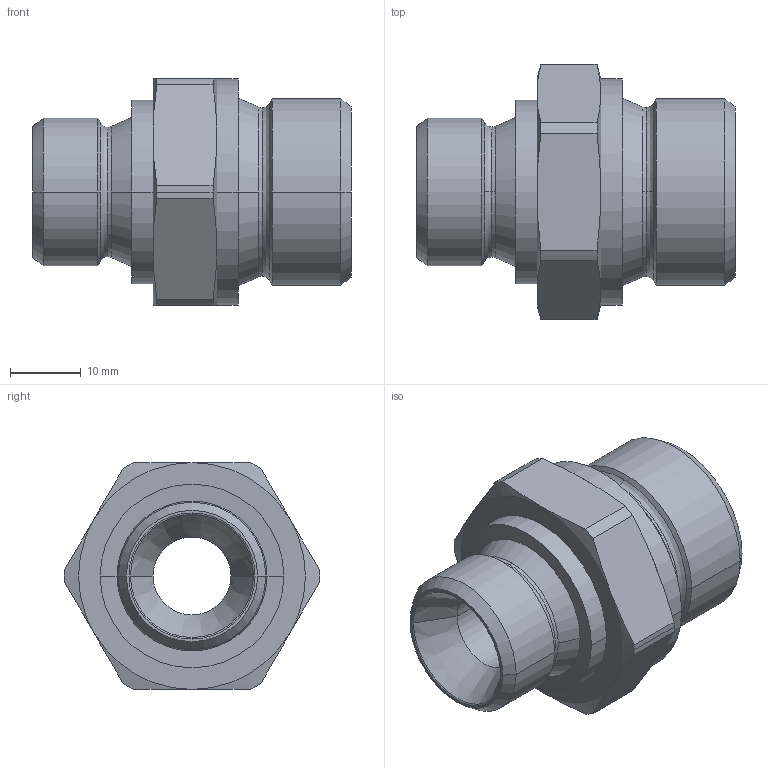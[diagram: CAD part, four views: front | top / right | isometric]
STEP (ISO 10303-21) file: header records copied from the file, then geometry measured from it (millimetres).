
FILE_DESCRIPTION((''),'2;1');
FILE_NAME('300513.stp','2006-09-11T08:11:15',(''),(''),'AutoCAD STEP 2000i','AutoCAD 2000i',', , ');
FILE_SCHEMA(('CONFIG_CONTROL_DESIGN'));
Length unit declared in the file: millimetre
Products named in the file (2): 300513.0; CHIAVE SMUSSATA#0
Assembly tree (1 placements, depth 2):
  300513.0
    CHIAVE SMUSSATA#0
Bounding box: 45 x 36 x 32 mm (x, y, z)
Volume: 16449.5 mm3; surface area: 7076.4 mm2
Topology: 1 solids, 1 shells, 76 faces, 178 edges, 106 vertices
Faces by surface type: cone 34, cylinder 20, plane 10, bspline 8, torus 4
Entity records: 2593 total; most frequent: CARTESIAN_POINT 762, DIRECTION 400, ORIENTED_EDGE 356, EDGE_CURVE 178, AXIS2_PLACEMENT_3D 176, VERTEX_POINT 106, CIRCLE 106, EDGE_LOOP 80
